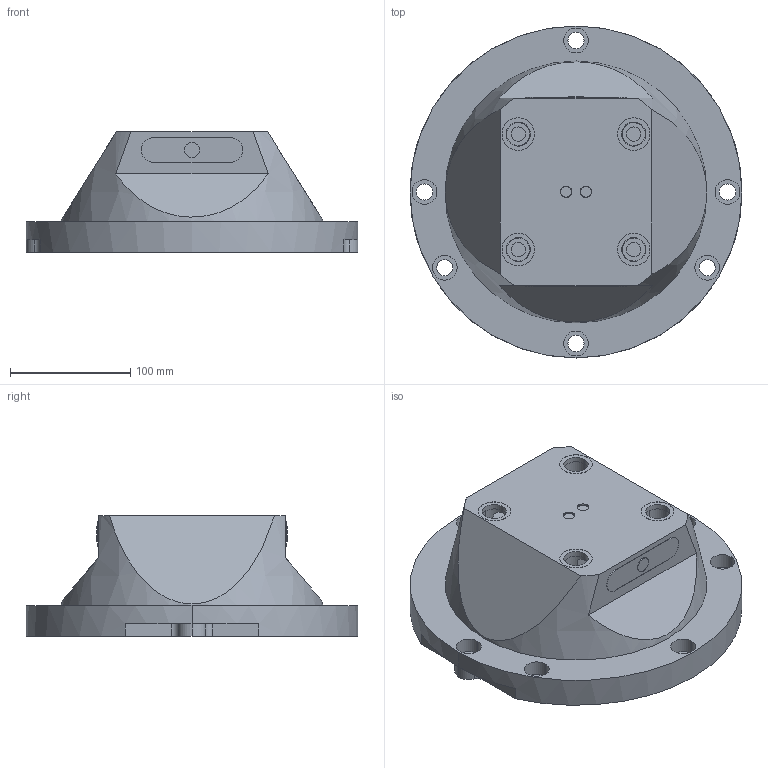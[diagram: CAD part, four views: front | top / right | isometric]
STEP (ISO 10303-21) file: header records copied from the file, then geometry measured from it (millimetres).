
FILE_DESCRIPTION (( 'STEP AP214' ), '1' );
FILE_NAME ('D_RL96A-411.STEP', '2020-03-11T16:29:53', ( '' ), ( '' ), 'SwSTEP 2.0', 'SolidWorks 2018', '' );
FILE_SCHEMA (( 'AUTOMOTIVE_DESIGN' ));
Length unit declared in the file: millimetre
Products named in the file (1): D_RL96A-411
Bounding box: 276 x 276 x 100 mm (x, y, z)
Volume: 3390942.8 mm3; surface area: 220203.7 mm2
Topology: 4 solids, 4 shells, 185 faces, 451 edges, 298 vertices
Faces by surface type: cylinder 111, plane 68, cone 6
Entity records: 6556 total; most frequent: CARTESIAN_POINT 1479, DIRECTION 1029, ORIENTED_EDGE 894, EDGE_CURVE 447, AXIS2_PLACEMENT_3D 426, VERTEX_POINT 298, CIRCLE 240, EDGE_LOOP 239
